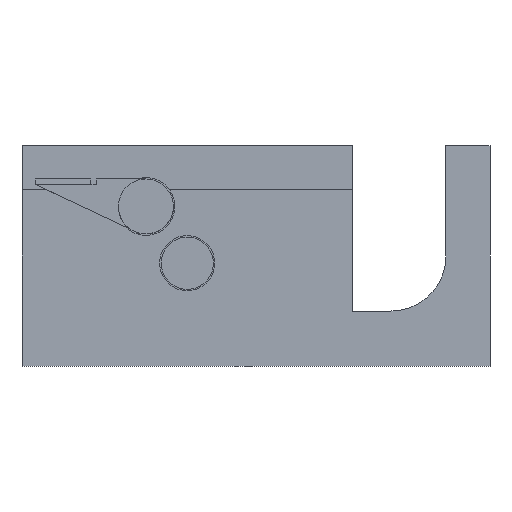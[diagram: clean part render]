
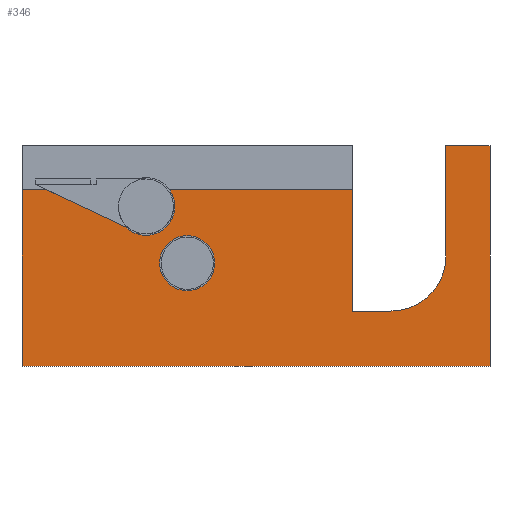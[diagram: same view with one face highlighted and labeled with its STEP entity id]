
A CAD part, left-side view. The second image highlights one B-rep face of the part: STEP entity #346.
In plain terms, the highlighted planar face has unit normal (-1, 0, 0).
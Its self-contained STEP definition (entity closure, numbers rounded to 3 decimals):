
#207 = VERTEX_POINT ( 'NONE', #1385 ) ;
#208 = VERTEX_POINT ( 'NONE', #1384 ) ;
#289 = ORIENTED_EDGE ( 'NONE', *, *, #455, .F. ) ;
#290 = ORIENTED_EDGE ( 'NONE', *, *, #356, .F. ) ;
#296 = EDGE_CURVE ( 'NONE', #354, #297, #1552, .T. ) ;
#297 = VERTEX_POINT ( 'NONE', #1548 ) ;
#305 = EDGE_CURVE ( 'NONE', #529, #306, #1520, .T. ) ;
#306 = VERTEX_POINT ( 'NONE', #1515 ) ;
#334 = EDGE_CURVE ( 'NONE', #297, #335, #1559, .T. ) ;
#335 = VERTEX_POINT ( 'NONE', #1555 ) ;
#346 = ADVANCED_FACE ( 'NONE', ( #1571, #1568, #1567 ), #1566, .F. ) ;
#347 = EDGE_LOOP ( 'NONE', ( #290, #289, #446, #447, #429, #431, #433, #434, #435 ) ) ;
#354 = VERTEX_POINT ( 'NONE', #1615 ) ;
#356 = EDGE_CURVE ( 'NONE', #357, #354, #1614, .T. ) ;
#357 = VERTEX_POINT ( 'NONE', #1610 ) ;
#371 = EDGE_CURVE ( 'NONE', #207, #208, #1591, .T. ) ;
#429 = ORIENTED_EDGE ( 'NONE', *, *, #430, .T. ) ;
#430 = EDGE_CURVE ( 'NONE', #525, #448, #1711, .T. ) ;
#431 = ORIENTED_EDGE ( 'NONE', *, *, #432, .T. ) ;
#432 = EDGE_CURVE ( 'NONE', #448, #481, #1750, .T. ) ;
#433 = ORIENTED_EDGE ( 'NONE', *, *, #480, .F. ) ;
#434 = ORIENTED_EDGE ( 'NONE', *, *, #334, .F. ) ;
#435 = ORIENTED_EDGE ( 'NONE', *, *, #296, .F. ) ;
#436 = EDGE_LOOP ( 'NONE', ( #437, #438 ) ) ;
#437 = ORIENTED_EDGE ( 'NONE', *, *, #601, .F. ) ;
#438 = ORIENTED_EDGE ( 'NONE', *, *, #439, .F. ) ;
#439 = EDGE_CURVE ( 'NONE', #603, #602, #1746, .T. ) ;
#440 = EDGE_LOOP ( 'NONE', ( #441, #443 ) ) ;
#441 = ORIENTED_EDGE ( 'NONE', *, *, #442, .T. ) ;
#442 = EDGE_CURVE ( 'NONE', #208, #207, #1717, .T. ) ;
#443 = ORIENTED_EDGE ( 'NONE', *, *, #371, .T. ) ;
#446 = ORIENTED_EDGE ( 'NONE', *, *, #305, .F. ) ;
#447 = ORIENTED_EDGE ( 'NONE', *, *, #528, .F. ) ;
#448 = VERTEX_POINT ( 'NONE', #1727 ) ;
#455 = EDGE_CURVE ( 'NONE', #306, #357, #1706, .T. ) ;
#480 = EDGE_CURVE ( 'NONE', #335, #481, #1789, .T. ) ;
#481 = VERTEX_POINT ( 'NONE', #1790 ) ;
#525 = VERTEX_POINT ( 'NONE', #2103 ) ;
#528 = EDGE_CURVE ( 'NONE', #525, #529, #2102, .T. ) ;
#529 = VERTEX_POINT ( 'NONE', #2084 ) ;
#601 = EDGE_CURVE ( 'NONE', #602, #603, #2355, .T. ) ;
#602 = VERTEX_POINT ( 'NONE', #2360 ) ;
#603 = VERTEX_POINT ( 'NONE', #2358 ) ;
#1384 = CARTESIAN_POINT ( 'NONE',  ( -20., 60., -1.3 ) ) ;
#1385 = CARTESIAN_POINT ( 'NONE',  ( -20., 50., -1.3 ) ) ;
#1515 = CARTESIAN_POINT ( 'NONE',  ( -20., 8., 0. ) ) ;
#1516 = DIRECTION ( 'NONE',  ( 0., 0., -1. ) ) ;
#1517 = DIRECTION ( 'NONE',  ( -1., 0., 0. ) ) ;
#1518 = CARTESIAN_POINT ( 'NONE',  ( -20., 18., 0. ) ) ;
#1519 = AXIS2_PLACEMENT_3D ( 'NONE', #1518, #1517, #1516 ) ;
#1520 = CIRCLE ( 'NONE', #1519, 10. ) ;
#1548 = CARTESIAN_POINT ( 'NONE',  ( -20., 0., -20. ) ) ;
#1549 = DIRECTION ( 'NONE',  ( 0., 0., -1. ) ) ;
#1550 = VECTOR ( 'NONE', #1549, 1000. ) ;
#1551 = CARTESIAN_POINT ( 'NONE',  ( -20., 0., 20. ) ) ;
#1552 = LINE ( 'NONE', #1551, #1550 ) ;
#1555 = CARTESIAN_POINT ( 'NONE',  ( -20., 85., -20. ) ) ;
#1556 = DIRECTION ( 'NONE',  ( 0., 1., 0. ) ) ;
#1557 = VECTOR ( 'NONE', #1556, 1000. ) ;
#1558 = CARTESIAN_POINT ( 'NONE',  ( -20., 0., -20. ) ) ;
#1559 = LINE ( 'NONE', #1558, #1557 ) ;
#1566 = PLANE ( 'NONE',  #1624 ) ;
#1567 = FACE_BOUND ( 'NONE', #440, .T. ) ;
#1568 = FACE_BOUND ( 'NONE', #436, .T. ) ;
#1571 = FACE_OUTER_BOUND ( 'NONE', #347, .T. ) ;
#1587 = DIRECTION ( 'NONE',  ( 0., 1., 0. ) ) ;
#1588 = DIRECTION ( 'NONE',  ( 1., 0., 0. ) ) ;
#1589 = CARTESIAN_POINT ( 'NONE',  ( -20., 55., -1.3 ) ) ;
#1590 = AXIS2_PLACEMENT_3D ( 'NONE', #1589, #1588, #1587 ) ;
#1591 = CIRCLE ( 'NONE', #1590, 5. ) ;
#1610 = CARTESIAN_POINT ( 'NONE',  ( -20., 8., 20. ) ) ;
#1611 = DIRECTION ( 'NONE',  ( 0., -1., 0. ) ) ;
#1612 = VECTOR ( 'NONE', #1611, 1000. ) ;
#1613 = CARTESIAN_POINT ( 'NONE',  ( -20., 8., 20. ) ) ;
#1614 = LINE ( 'NONE', #1613, #1612 ) ;
#1615 = CARTESIAN_POINT ( 'NONE',  ( -20., 0., 20. ) ) ;
#1621 = DIRECTION ( 'NONE',  ( 0., 0., -1. ) ) ;
#1622 = DIRECTION ( 'NONE',  ( 1., 0., 0. ) ) ;
#1623 = CARTESIAN_POINT ( 'NONE',  ( -20., 18., 0. ) ) ;
#1624 = AXIS2_PLACEMENT_3D ( 'NONE', #1623, #1622, #1621 ) ;
#1706 = LINE ( 'NONE', #1715, #1714 ) ;
#1711 = LINE ( 'NONE', #1722, #1721 ) ;
#1713 = DIRECTION ( 'NONE',  ( 0., 0., 1. ) ) ;
#1714 = VECTOR ( 'NONE', #1713, 1000. ) ;
#1715 = CARTESIAN_POINT ( 'NONE',  ( -20., 8., 0. ) ) ;
#1716 = CARTESIAN_POINT ( 'NONE',  ( -20., 55., -1.3 ) ) ;
#1717 = CIRCLE ( 'NONE', #1755, 5. ) ;
#1718 = DIRECTION ( 'NONE',  ( 0., -1., 0. ) ) ;
#1719 = DIRECTION ( 'NONE',  ( -1., 0., 0. ) ) ;
#1720 = DIRECTION ( 'NONE',  ( 0., 0., 1. ) ) ;
#1721 = VECTOR ( 'NONE', #1720, 1000. ) ;
#1722 = CARTESIAN_POINT ( 'NONE',  ( -20., 25., -10. ) ) ;
#1727 = CARTESIAN_POINT ( 'NONE',  ( -20., 25., 12. ) ) ;
#1744 = CARTESIAN_POINT ( 'NONE',  ( -20., 62.5, 9. ) ) ;
#1745 = AXIS2_PLACEMENT_3D ( 'NONE', #1744, #1719, #1718 ) ;
#1746 = CIRCLE ( 'NONE', #1745, 2. ) ;
#1747 = DIRECTION ( 'NONE',  ( 0., 1., 0. ) ) ;
#1748 = VECTOR ( 'NONE', #1747, 1000. ) ;
#1749 = CARTESIAN_POINT ( 'NONE',  ( -20., 25., 12. ) ) ;
#1750 = LINE ( 'NONE', #1749, #1748 ) ;
#1753 = DIRECTION ( 'NONE',  ( 0., 1., 0. ) ) ;
#1754 = DIRECTION ( 'NONE',  ( 1., 0., 0. ) ) ;
#1755 = AXIS2_PLACEMENT_3D ( 'NONE', #1716, #1754, #1753 ) ;
#1789 = LINE ( 'NONE', #1793, #1792 ) ;
#1790 = CARTESIAN_POINT ( 'NONE',  ( -20., 85., 12. ) ) ;
#1791 = DIRECTION ( 'NONE',  ( 0., 0., 1. ) ) ;
#1792 = VECTOR ( 'NONE', #1791, 1000. ) ;
#1793 = CARTESIAN_POINT ( 'NONE',  ( -20., 85., -20. ) ) ;
#2084 = CARTESIAN_POINT ( 'NONE',  ( -20., 18., -10. ) ) ;
#2095 = VECTOR ( 'NONE', #2121, 1000. ) ;
#2101 = CARTESIAN_POINT ( 'NONE',  ( -20., 85., -10. ) ) ;
#2102 = LINE ( 'NONE', #2101, #2095 ) ;
#2103 = CARTESIAN_POINT ( 'NONE',  ( -20., 25., -10. ) ) ;
#2121 = DIRECTION ( 'NONE',  ( 0., -1., 0. ) ) ;
#2332 = CARTESIAN_POINT ( 'NONE',  ( -20., 62.5, 9. ) ) ;
#2347 = DIRECTION ( 'NONE',  ( 0., -1., 0. ) ) ;
#2354 = DIRECTION ( 'NONE',  ( -1., 0., 0. ) ) ;
#2355 = CIRCLE ( 'NONE', #2356, 2. ) ;
#2356 = AXIS2_PLACEMENT_3D ( 'NONE', #2332, #2354, #2347 ) ;
#2358 = CARTESIAN_POINT ( 'NONE',  ( -20., 64.432, 9.518 ) ) ;
#2360 = CARTESIAN_POINT ( 'NONE',  ( -20., 60.568, 8.482 ) ) ;
